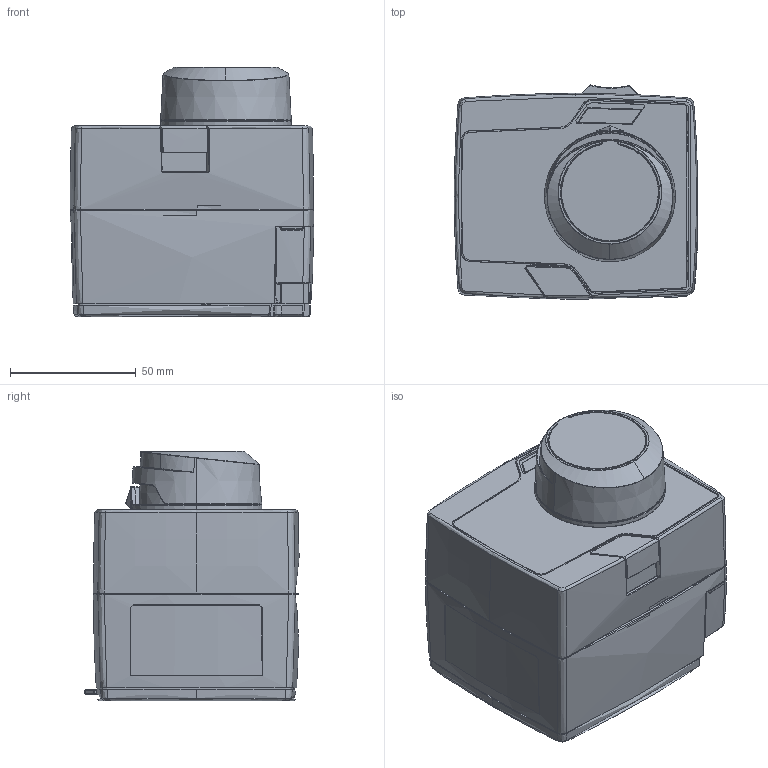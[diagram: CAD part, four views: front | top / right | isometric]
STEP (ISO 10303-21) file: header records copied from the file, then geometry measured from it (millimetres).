
FILE_DESCRIPTION (( 'STEP AP214' ), '1' );
FILE_NAME ('ARM323.STEP', '2022-02-07T12:27:41', ( '' ), ( '' ), 'SwSTEP 2.0', 'SolidWorks 2021', '' );
FILE_SCHEMA (( 'AUTOMOTIVE_DESIGN' ));
Length unit declared in the file: millimetre
Products named in the file (14): M9120010; kabel+konektor+overmold; M9120003_REV2; M9120005; KA22x6; M9120011; M9120007; ARM323; M9120001; M9120004_REV2; M9120009; M9120006; 430250600; M9120008
Assembly tree (16 placements, depth 3):
  ARM323
    KA22x6  x4
    kabel+konektor+overmold
      430250600
    M9120001
    M9120003_REV2
    M9120004_REV2
    M9120005
    M9120006
    M9120007
    M9120008
    M9120009
    M9120010
    M9120011
Bounding box: 96.97 x 85.32 x 99.25 mm (x, y, z)
Volume: 153273.4 mm3; surface area: 136462.9 mm2
Topology: 15 solids, 17 shells, 5973 faces, 16056 edges, 9305 vertices
Faces by surface type: bspline 2698, plane 1314, cylinder 1204, cone 703, torus 54
Entity records: 333919 total; most frequent: CARTESIAN_POINT 149924, ORIENTED_EDGE 30002, DIRECTION 16598, EDGE_CURVE 15001, VERTEX_POINT 9197, B_SPLINE_CURVE_WITH_KNOTS 7176, EDGE_LOOP 6072, AXIS2_PLACEMENT_3D 6039
